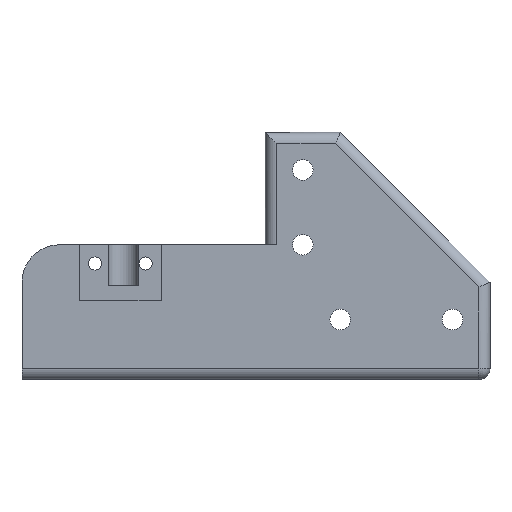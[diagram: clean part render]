
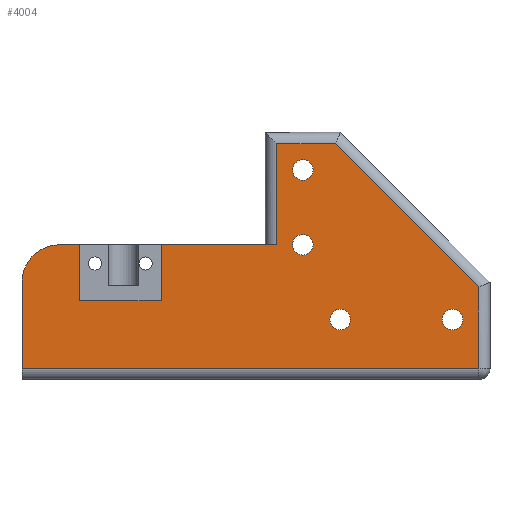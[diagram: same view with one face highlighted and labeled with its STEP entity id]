
A CAD part, left-side view. The second image highlights one B-rep face of the part: STEP entity #4004.
In plain terms, the highlighted planar face has unit normal (-1, 0, 0) as drawn and (1, 0, 0) by its records, which use the part's own axes.
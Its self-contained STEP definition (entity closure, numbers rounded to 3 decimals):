
#92=CIRCLE('',#4136,2.75);
#94=CIRCLE('',#4139,2.75);
#96=CIRCLE('',#4142,2.75);
#98=CIRCLE('',#4145,2.75);
#145=CIRCLE('',#4272,10.);
#243=FACE_BOUND('',#866,.T.);
#244=FACE_BOUND('',#867,.T.);
#245=FACE_BOUND('',#868,.T.);
#246=FACE_BOUND('',#869,.T.);
#606=FACE_OUTER_BOUND('',#865,.T.);
#865=EDGE_LOOP('',(#3551,#3552,#3553,#3554,#3555,#3556,#3557,#3558,#3559,
#3560,#3561,#3562));
#866=EDGE_LOOP('',(#3563));
#867=EDGE_LOOP('',(#3564));
#868=EDGE_LOOP('',(#3565));
#869=EDGE_LOOP('',(#3566));
#1166=LINE('',#8764,#1518);
#1171=LINE('',#8776,#1523);
#1198=LINE('',#8870,#1550);
#1199=LINE('',#8874,#1551);
#1201=LINE('',#8882,#1553);
#1203=LINE('',#8887,#1555);
#1206=LINE('',#8891,#1558);
#1222=LINE('',#8933,#1574);
#1226=LINE('',#8948,#1578);
#1227=LINE('',#8950,#1579);
#1228=LINE('',#8951,#1580);
#1518=VECTOR('',#4891,10.);
#1523=VECTOR('',#4898,10.);
#1550=VECTOR('',#5005,10.);
#1551=VECTOR('',#5008,10.);
#1553=VECTOR('',#5016,10.);
#1555=VECTOR('',#5022,10.);
#1558=VECTOR('',#5027,10.);
#1574=VECTOR('',#5079,10.);
#1578=VECTOR('',#5095,10.);
#1579=VECTOR('',#5096,10.);
#1580=VECTOR('',#5097,10.);
#1844=VERTEX_POINT('',#8557);
#1846=VERTEX_POINT('',#8563);
#1848=VERTEX_POINT('',#8569);
#1850=VERTEX_POINT('',#8575);
#1915=VERTEX_POINT('',#8761);
#1916=VERTEX_POINT('',#8763);
#1921=VERTEX_POINT('',#8773);
#1922=VERTEX_POINT('',#8775);
#1948=VERTEX_POINT('',#8864);
#1949=VERTEX_POINT('',#8868);
#1950=VERTEX_POINT('',#8872);
#1951=VERTEX_POINT('',#8873);
#1954=VERTEX_POINT('',#8881);
#1963=VERTEX_POINT('',#8932);
#1968=VERTEX_POINT('',#8947);
#1969=VERTEX_POINT('',#8949);
#2326=EDGE_CURVE('',#1844,#1844,#92,.T.);
#2329=EDGE_CURVE('',#1846,#1846,#94,.T.);
#2332=EDGE_CURVE('',#1848,#1848,#96,.T.);
#2335=EDGE_CURVE('',#1850,#1850,#98,.T.);
#2426=EDGE_CURVE('',#1915,#1916,#1166,.T.);
#2432=EDGE_CURVE('',#1921,#1922,#1171,.T.);
#2481=EDGE_CURVE('',#1949,#1948,#1198,.T.);
#2482=EDGE_CURVE('',#1950,#1951,#1199,.T.);
#2486=EDGE_CURVE('',#1954,#1922,#1201,.T.);
#2489=EDGE_CURVE('',#1951,#1954,#1203,.T.);
#2492=EDGE_CURVE('',#1948,#1950,#1206,.T.);
#2512=EDGE_CURVE('',#1963,#1949,#1222,.T.);
#2518=EDGE_CURVE('',#1915,#1963,#145,.T.);
#2520=EDGE_CURVE('',#1968,#1921,#1226,.T.);
#2521=EDGE_CURVE('',#1969,#1968,#1227,.T.);
#2522=EDGE_CURVE('',#1916,#1969,#1228,.T.);
#3551=ORIENTED_EDGE('',*,*,#2481,.T.);
#3552=ORIENTED_EDGE('',*,*,#2492,.T.);
#3553=ORIENTED_EDGE('',*,*,#2482,.T.);
#3554=ORIENTED_EDGE('',*,*,#2489,.T.);
#3555=ORIENTED_EDGE('',*,*,#2486,.T.);
#3556=ORIENTED_EDGE('',*,*,#2432,.F.);
#3557=ORIENTED_EDGE('',*,*,#2520,.F.);
#3558=ORIENTED_EDGE('',*,*,#2521,.F.);
#3559=ORIENTED_EDGE('',*,*,#2522,.F.);
#3560=ORIENTED_EDGE('',*,*,#2426,.F.);
#3561=ORIENTED_EDGE('',*,*,#2518,.T.);
#3562=ORIENTED_EDGE('',*,*,#2512,.T.);
#3563=ORIENTED_EDGE('',*,*,#2326,.T.);
#3564=ORIENTED_EDGE('',*,*,#2329,.T.);
#3565=ORIENTED_EDGE('',*,*,#2332,.T.);
#3566=ORIENTED_EDGE('',*,*,#2335,.T.);
#3791=PLANE('',#4274);
#4004=ADVANCED_FACE('',(#606,#243,#244,#245,#246),#3791,.F.);
#4136=AXIS2_PLACEMENT_3D('',#8559,#4691,#4692);
#4139=AXIS2_PLACEMENT_3D('',#8565,#4698,#4699);
#4142=AXIS2_PLACEMENT_3D('',#8571,#4705,#4706);
#4145=AXIS2_PLACEMENT_3D('',#8577,#4712,#4713);
#4272=AXIS2_PLACEMENT_3D('',#8944,#5089,#5090);
#4274=AXIS2_PLACEMENT_3D('',#8946,#5093,#5094);
#4691=DIRECTION('center_axis',(-1.,0.,0.));
#4692=DIRECTION('ref_axis',(0.,0.,1.));
#4698=DIRECTION('center_axis',(-1.,0.,0.));
#4699=DIRECTION('ref_axis',(0.,0.,1.));
#4705=DIRECTION('center_axis',(-1.,0.,0.));
#4706=DIRECTION('ref_axis',(0.,0.,1.));
#4712=DIRECTION('center_axis',(-1.,0.,0.));
#4713=DIRECTION('ref_axis',(0.,0.,1.));
#4891=DIRECTION('',(0.,-1.,0.));
#4898=DIRECTION('',(0.,-1.,0.));
#5005=DIRECTION('',(0.,-1.,0.));
#5008=DIRECTION('',(0.,0.707,-0.707));
#5016=DIRECTION('',(0.,0.,1.));
#5022=DIRECTION('',(0.,1.,0.));
#5027=DIRECTION('',(0.,0.,-1.));
#5079=DIRECTION('',(0.,0.,1.));
#5089=DIRECTION('center_axis',(1.,0.,0.));
#5090=DIRECTION('ref_axis',(0.,0.707,-0.707));
#5093=DIRECTION('center_axis',(-1.,0.,0.));
#5094=DIRECTION('ref_axis',(0.,0.,1.));
#5095=DIRECTION('',(0.,0.,-1.));
#5096=DIRECTION('',(0.,-1.,0.));
#5097=DIRECTION('',(0.,0.,1.));
#8557=CARTESIAN_POINT('',(16.,290.,-22.75));
#8559=CARTESIAN_POINT('Origin',(16.,290.,-20.));
#8563=CARTESIAN_POINT('',(16.,280.,-2.75));
#8565=CARTESIAN_POINT('Origin',(16.,280.,0.));
#8569=CARTESIAN_POINT('',(16.,290.,-42.75));
#8571=CARTESIAN_POINT('Origin',(16.,290.,-40.));
#8575=CARTESIAN_POINT('',(16.,250.,-2.75));
#8577=CARTESIAN_POINT('Origin',(16.,250.,0.));
#8761=CARTESIAN_POINT('',(16.,355.,-20.));
#8763=CARTESIAN_POINT('',(16.,349.7,-20.));
#8764=CARTESIAN_POINT('',(16.,332.5,-20.));
#8773=CARTESIAN_POINT('',(16.,327.8,-20.));
#8775=CARTESIAN_POINT('',(16.,297.,-20.));
#8776=CARTESIAN_POINT('',(16.,332.5,-20.));
#8864=CARTESIAN_POINT('',(16.,243.,13.));
#8868=CARTESIAN_POINT('',(16.,365.,13.));
#8870=CARTESIAN_POINT('',(16.,300.,13.));
#8872=CARTESIAN_POINT('',(16.,243.,-8.757));
#8873=CARTESIAN_POINT('',(16.,281.243,-47.));
#8874=CARTESIAN_POINT('',(16.,277.121,-42.879));
#8881=CARTESIAN_POINT('',(16.,297.,-47.));
#8882=CARTESIAN_POINT('',(16.,297.,-33.5));
#8887=CARTESIAN_POINT('',(16.,300.,-47.));
#8891=CARTESIAN_POINT('',(16.,243.,-99.8));
#8932=CARTESIAN_POINT('',(16.,365.,-10.));
#8933=CARTESIAN_POINT('',(16.,365.,16.));
#8944=CARTESIAN_POINT('Origin',(16.,355.,-10.));
#8946=CARTESIAN_POINT('Origin',(16.,300.,-50.));
#8947=CARTESIAN_POINT('',(16.,327.8,-5.));
#8948=CARTESIAN_POINT('',(16.,327.8,-33.5));
#8949=CARTESIAN_POINT('',(16.,349.7,-5.));
#8950=CARTESIAN_POINT('',(16.,332.5,-5.));
#8951=CARTESIAN_POINT('',(16.,349.7,-33.5));
